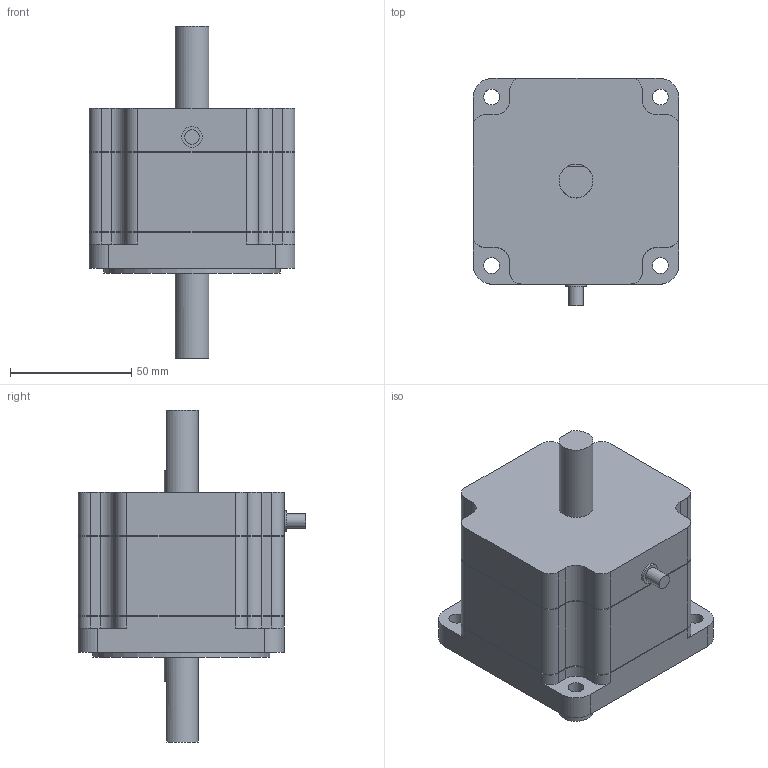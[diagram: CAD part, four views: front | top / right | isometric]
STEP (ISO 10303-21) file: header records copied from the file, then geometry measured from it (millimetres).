
FILE_DESCRIPTION((''),'2;1');
FILE_NAME('C:\Documents and Settings\abe\デスクトップ\オリエンタルモーター\PK296-E4.5B.stp','2008-08-01T10:20:25',('abe'),(''),'Autodesk Inventor 11','Autodesk Inventor 11','');
FILE_SCHEMA(('AUTOMOTIVE_DESIGN { 1 0 10303 214 1 1 1 1 }'));
Length unit declared in the file: millimetre
Products named in the file (1): PK296-E4.5B
Bounding box: 85 x 94 x 137 mm (x, y, z)
Volume: 442064.8 mm3; surface area: 39548.8 mm2
Topology: 1 solids, 1 shells, 152 faces, 423 edges, 282 vertices
Faces by surface type: plane 79, cylinder 73
Full cylindrical faces by diameter (mm): 6 x1, 6.5 x4, 8.5 x1, 14 x2, 73.025 x1
Entity records: 4891 total; most frequent: DIRECTION 866, CARTESIAN_POINT 845, ORIENTED_EDGE 824, EDGE_CURVE 412, AXIS2_PLACEMENT_3D 301, VERTEX_POINT 280, VECTOR 264, LINE 264
